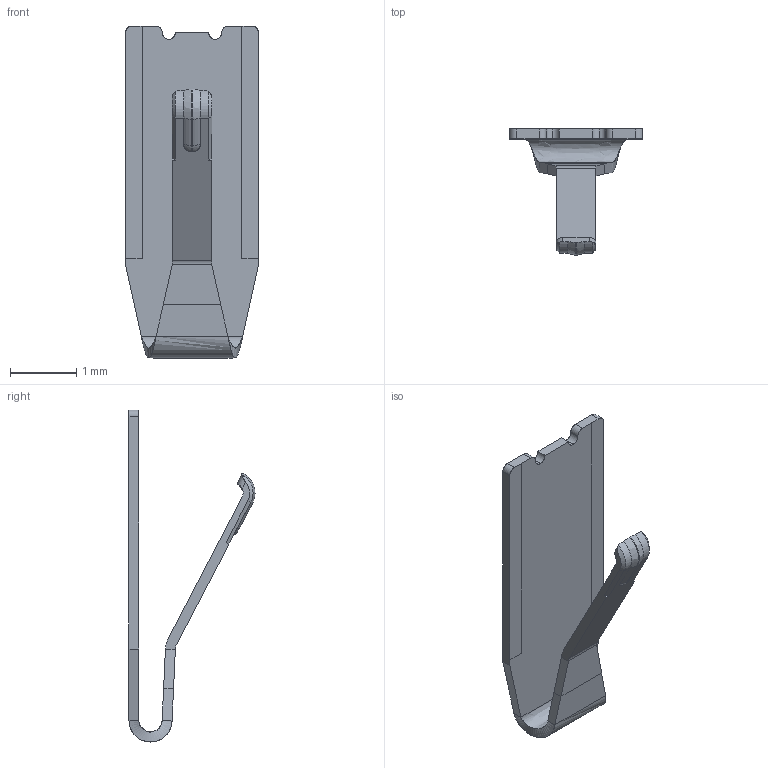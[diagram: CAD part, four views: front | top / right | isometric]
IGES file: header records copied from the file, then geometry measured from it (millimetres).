
Start section: SolidWorks IGES file using analytic representation for surfaces
Bounding box: 2 x 1.9 x 5 mm (x, y, z)
Surface area: 28.5 mm2 (no closed solid volume)
Topology: 0 solids, 0 shells, 60 faces, 392 edges, 392 vertices
Faces by surface type: bspline 37, revolution 23
